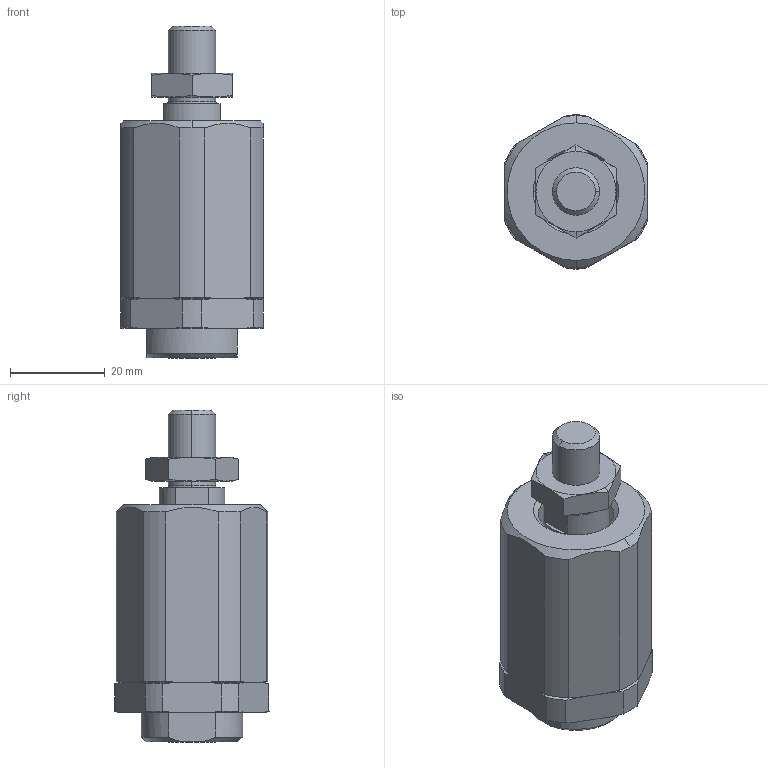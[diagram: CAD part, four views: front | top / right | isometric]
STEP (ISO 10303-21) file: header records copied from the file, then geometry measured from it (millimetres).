
FILE_DESCRIPTION (( 'STEP AP203' ), '1' );
FILE_NAME ('Flexokupplung_M10x1.25_FK-M10x1.25_536385.step', '2021-07-09T14:15:33', ( '' ), ( '' ), 'SwSTEP 2.0', 'SolidWorks 2020', '' );
FILE_SCHEMA (( 'CONFIG_CONTROL_DESIGN' ));
Length unit declared in the file: millimetre
Products named in the file (1): Flexokupplung_M10x1.25_FK-M10x1.25_536385
Bounding box: 30 x 32.48 x 70 mm (x, y, z)
Volume: 34410.2 mm3; surface area: 15950.7 mm2
Topology: 7 solids, 7 shells, 141 faces, 332 edges, 212 vertices
Faces by surface type: cone 50, plane 43, cylinder 42, bspline 6
Entity records: 4817 total; most frequent: CARTESIAN_POINT 1506, DIRECTION 682, ORIENTED_EDGE 664, EDGE_CURVE 332, AXIS2_PLACEMENT_3D 282, VERTEX_POINT 212, EDGE_LOOP 160, CIRCLE 146
